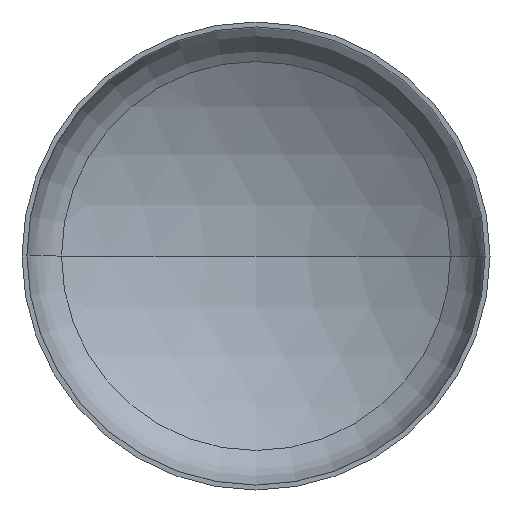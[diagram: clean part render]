
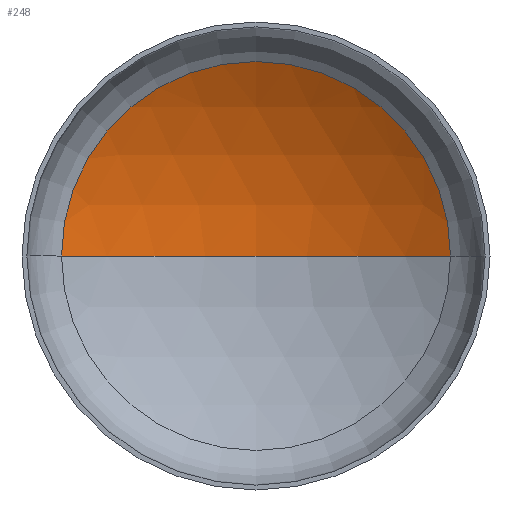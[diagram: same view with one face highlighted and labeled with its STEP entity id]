
A CAD part, front view. The second image highlights one B-rep face of the part: STEP entity #248.
In plain terms, the highlighted spherical face has radius 5200 mm.
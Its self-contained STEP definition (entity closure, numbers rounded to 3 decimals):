
#2 = DIRECTION ( 'NONE',  ( 1., 0., 0. ) ) ;
#5 = VERTEX_POINT ( 'NONE', #280 ) ;
#14 = DIRECTION ( 'NONE',  ( 0., 0., 1. ) ) ;
#17 = AXIS2_PLACEMENT_3D ( 'NONE', #35, #377, #174 ) ;
#35 = CARTESIAN_POINT ( 'NONE',  ( 0., -3468.715, 0. ) ) ;
#53 = AXIS2_PLACEMENT_3D ( 'NONE', #287, #14, #2 ) ;
#57 = AXIS2_PLACEMENT_3D ( 'NONE', #211, #212, #194 ) ;
#59 = AXIS2_PLACEMENT_3D ( 'NONE', #336, #197, #191 ) ;
#66 = VERTEX_POINT ( 'NONE', #350 ) ;
#86 = ORIENTED_EDGE ( 'NONE', *, *, #111, .T. ) ;
#103 = ORIENTED_EDGE ( 'NONE', *, *, #112, .T. ) ;
#111 = EDGE_CURVE ( 'NONE', #5, #66, #178, .T. ) ;
#112 = EDGE_CURVE ( 'NONE', #154, #5, #300, .T. ) ;
#114 = EDGE_CURVE ( 'NONE', #154, #66, #247, .T. ) ;
#131 = EDGE_LOOP ( 'NONE', ( #148, #103, #86 ) ) ;
#139 = FACE_OUTER_BOUND ( 'NONE', #131, .T. ) ;
#148 = ORIENTED_EDGE ( 'NONE', *, *, #114, .F. ) ;
#154 = VERTEX_POINT ( 'NONE', #165 ) ;
#165 = CARTESIAN_POINT ( 'NONE',  ( 0., 1731.285, 0. ) ) ;
#174 = DIRECTION ( 'NONE',  ( -1., 0., 0. ) ) ;
#178 = CIRCLE ( 'NONE', #57, 2701.524 ) ;
#191 = DIRECTION ( 'NONE',  ( -1., 0., 0. ) ) ;
#194 = DIRECTION ( 'NONE',  ( 1., 0., 0. ) ) ;
#197 = DIRECTION ( 'NONE',  ( 0., 0., -1. ) ) ;
#211 = CARTESIAN_POINT ( 'NONE',  ( 0., 974.456, 0. ) ) ;
#212 = DIRECTION ( 'NONE',  ( 0., -1., 0. ) ) ;
#241 = SPHERICAL_SURFACE ( 'NONE', #17, 5200. ) ;
#247 = CIRCLE ( 'NONE', #53, 5200. ) ;
#248 = ADVANCED_FACE ( 'NONE', ( #139 ), #241, .F. ) ;
#280 = CARTESIAN_POINT ( 'NONE',  ( 2701.524, 974.456, 0. ) ) ;
#287 = CARTESIAN_POINT ( 'NONE',  ( 0., -3468.715, 0. ) ) ;
#300 = CIRCLE ( 'NONE', #59, 5200. ) ;
#336 = CARTESIAN_POINT ( 'NONE',  ( 0., -3468.715, 0. ) ) ;
#350 = CARTESIAN_POINT ( 'NONE',  ( -2701.524, 974.456, 0. ) ) ;
#377 = DIRECTION ( 'NONE',  ( 0., 0., -1. ) ) ;
